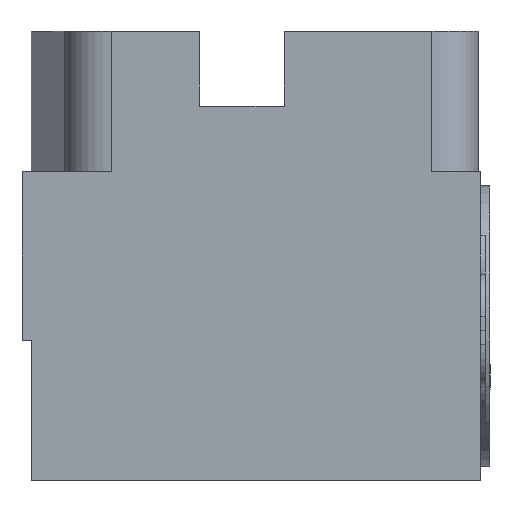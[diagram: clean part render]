
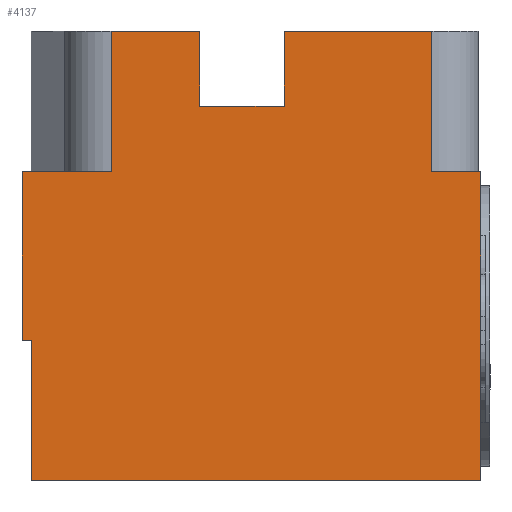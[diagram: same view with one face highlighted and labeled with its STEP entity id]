
A CAD part, left-side view. The second image highlights one B-rep face of the part: STEP entity #4137.
In plain terms, the highlighted planar face has unit normal (-1, 0, 0).
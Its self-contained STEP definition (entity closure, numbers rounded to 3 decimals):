
#488=CARTESIAN_POINT('Vertex',(0.,1.,0.)) ;
#491=CARTESIAN_POINT('Line Origine',(0.,25.,0.)) ;
#495=CARTESIAN_POINT('Vertex',(0.,49.,0.)) ;
#515=CARTESIAN_POINT('Line Origine',(0.,49.,7.5)) ;
#519=CARTESIAN_POINT('Vertex',(0.,49.,15.)) ;
#1438=CARTESIAN_POINT('Vertex',(0.,31.,48.)) ;
#1441=CARTESIAN_POINT('Line Origine',(0.,31.,44.)) ;
#1445=CARTESIAN_POINT('Vertex',(0.,31.,40.)) ;
#1471=CARTESIAN_POINT('Vertex',(0.,6.211,33.)) ;
#1487=CARTESIAN_POINT('Vertex',(0.,6.211,48.)) ;
#1490=CARTESIAN_POINT('Line Origine',(0.,6.211,24.)) ;
#1506=CARTESIAN_POINT('Vertex',(0.,50.,15.)) ;
#1511=CARTESIAN_POINT('Line Origine',(0.,50.,24.)) ;
#1515=CARTESIAN_POINT('Vertex',(0.,50.,33.)) ;
#1617=CARTESIAN_POINT('Vertex',(0.,22.,40.)) ;
#1620=CARTESIAN_POINT('Line Origine',(0.,22.,44.)) ;
#1624=CARTESIAN_POINT('Vertex',(0.,22.,48.)) ;
#3427=CARTESIAN_POINT('Vertex',(0.,40.486,33.)) ;
#3430=CARTESIAN_POINT('Line Origine',(0.,40.486,24.)) ;
#3434=CARTESIAN_POINT('Vertex',(0.,40.486,48.)) ;
#4079=CARTESIAN_POINT('Axis2P3D Location',(0.,50.,0.)) ;
#4084=CARTESIAN_POINT('Line Origine',(0.,45.243,33.)) ;
#4089=CARTESIAN_POINT('Line Origine',(0.,49.5,15.)) ;
#4094=CARTESIAN_POINT('Line Origine',(0.,1.,16.5)) ;
#4098=CARTESIAN_POINT('Vertex',(0.,1.,33.)) ;
#4101=CARTESIAN_POINT('Line Origine',(0.,3.605,33.)) ;
#4106=CARTESIAN_POINT('Line Origine',(0.,14.105,48.)) ;
#4111=CARTESIAN_POINT('Line Origine',(0.,26.5,40.)) ;
#4116=CARTESIAN_POINT('Line Origine',(0.,35.743,48.)) ;
#492=DIRECTION('Vector Direction',(0.,-1.,0.)) ;
#516=DIRECTION('Vector Direction',(0.,0.,1.)) ;
#1442=DIRECTION('Vector Direction',(0.,0.,-1.)) ;
#1491=DIRECTION('Vector Direction',(0.,0.,-1.)) ;
#1512=DIRECTION('Vector Direction',(0.,0.,1.)) ;
#1621=DIRECTION('Vector Direction',(0.,0.,-1.)) ;
#3431=DIRECTION('Vector Direction',(0.,0.,-1.)) ;
#4080=DIRECTION('Axis2P3D Direction',(-1.,0.,0.)) ;
#4081=DIRECTION('Axis2P3D XDirection',(0.,-1.,0.)) ;
#4085=DIRECTION('Vector Direction',(0.,-1.,0.)) ;
#4090=DIRECTION('Vector Direction',(0.,-1.,0.)) ;
#4095=DIRECTION('Vector Direction',(0.,0.,-1.)) ;
#4102=DIRECTION('Vector Direction',(0.,-1.,0.)) ;
#4107=DIRECTION('Vector Direction',(0.,-1.,0.)) ;
#4112=DIRECTION('Vector Direction',(0.,-1.,0.)) ;
#4117=DIRECTION('Vector Direction',(0.,-1.,0.)) ;
#4082=AXIS2_PLACEMENT_3D('Plane Axis2P3D',#4079,#4080,#4081) ;
#4122=ORIENTED_EDGE('',*,*,#4088,.F.) ;
#4123=ORIENTED_EDGE('',*,*,#1517,.F.) ;
#4124=ORIENTED_EDGE('',*,*,#4093,.F.) ;
#4125=ORIENTED_EDGE('',*,*,#521,.F.) ;
#4126=ORIENTED_EDGE('',*,*,#497,.T.) ;
#4127=ORIENTED_EDGE('',*,*,#4100,.F.) ;
#4128=ORIENTED_EDGE('',*,*,#4105,.F.) ;
#4129=ORIENTED_EDGE('',*,*,#1494,.F.) ;
#4130=ORIENTED_EDGE('',*,*,#4110,.F.) ;
#4131=ORIENTED_EDGE('',*,*,#1626,.T.) ;
#4132=ORIENTED_EDGE('',*,*,#4115,.F.) ;
#4133=ORIENTED_EDGE('',*,*,#1447,.F.) ;
#4134=ORIENTED_EDGE('',*,*,#4120,.F.) ;
#4135=ORIENTED_EDGE('',*,*,#3436,.T.) ;
#493=VECTOR('Line Direction',#492,1.) ;
#517=VECTOR('Line Direction',#516,1.) ;
#1443=VECTOR('Line Direction',#1442,1.) ;
#1492=VECTOR('Line Direction',#1491,1.) ;
#1513=VECTOR('Line Direction',#1512,1.) ;
#1622=VECTOR('Line Direction',#1621,1.) ;
#3432=VECTOR('Line Direction',#3431,1.) ;
#4086=VECTOR('Line Direction',#4085,1.) ;
#4091=VECTOR('Line Direction',#4090,1.) ;
#4096=VECTOR('Line Direction',#4095,1.) ;
#4103=VECTOR('Line Direction',#4102,1.) ;
#4108=VECTOR('Line Direction',#4107,1.) ;
#4113=VECTOR('Line Direction',#4112,1.) ;
#4118=VECTOR('Line Direction',#4117,1.) ;
#4137=ADVANCED_FACE('PartBody',(#4136),#4083,.T.) ;
#497=EDGE_CURVE('',#496,#489,#494,.T.) ;
#521=EDGE_CURVE('',#496,#520,#518,.T.) ;
#1447=EDGE_CURVE('',#1439,#1446,#1444,.T.) ;
#1494=EDGE_CURVE('',#1488,#1472,#1493,.T.) ;
#1517=EDGE_CURVE('',#1507,#1516,#1514,.T.) ;
#1626=EDGE_CURVE('',#1625,#1618,#1623,.T.) ;
#3436=EDGE_CURVE('',#3435,#3428,#3433,.T.) ;
#4088=EDGE_CURVE('',#1516,#3428,#4087,.T.) ;
#4093=EDGE_CURVE('',#520,#1507,#4092,.F.) ;
#4100=EDGE_CURVE('',#4099,#489,#4097,.T.) ;
#4105=EDGE_CURVE('',#1472,#4099,#4104,.T.) ;
#4110=EDGE_CURVE('',#1625,#1488,#4109,.T.) ;
#4115=EDGE_CURVE('',#1446,#1618,#4114,.T.) ;
#4120=EDGE_CURVE('',#3435,#1439,#4119,.T.) ;
#4121=EDGE_LOOP('',(#4122,#4123,#4124,#4125,#4126,#4127,#4128,#4129,#4130,#4131,#4132,#4133,#4134,#4135)) ;
#4136=FACE_OUTER_BOUND('',#4121,.T.) ;
#494=LINE('Line',#491,#493) ;
#518=LINE('Line',#515,#517) ;
#1444=LINE('Line',#1441,#1443) ;
#1493=LINE('Line',#1490,#1492) ;
#1514=LINE('Line',#1511,#1513) ;
#1623=LINE('Line',#1620,#1622) ;
#3433=LINE('Line',#3430,#3432) ;
#4087=LINE('Line',#4084,#4086) ;
#4092=LINE('Line',#4089,#4091) ;
#4097=LINE('Line',#4094,#4096) ;
#4104=LINE('Line',#4101,#4103) ;
#4109=LINE('Line',#4106,#4108) ;
#4114=LINE('Line',#4111,#4113) ;
#4119=LINE('Line',#4116,#4118) ;
#4083=PLANE('',#4082) ;
#489=VERTEX_POINT('',#488) ;
#496=VERTEX_POINT('',#495) ;
#520=VERTEX_POINT('',#519) ;
#1439=VERTEX_POINT('',#1438) ;
#1446=VERTEX_POINT('',#1445) ;
#1472=VERTEX_POINT('',#1471) ;
#1488=VERTEX_POINT('',#1487) ;
#1507=VERTEX_POINT('',#1506) ;
#1516=VERTEX_POINT('',#1515) ;
#1618=VERTEX_POINT('',#1617) ;
#1625=VERTEX_POINT('',#1624) ;
#3428=VERTEX_POINT('',#3427) ;
#3435=VERTEX_POINT('',#3434) ;
#4099=VERTEX_POINT('',#4098) ;
